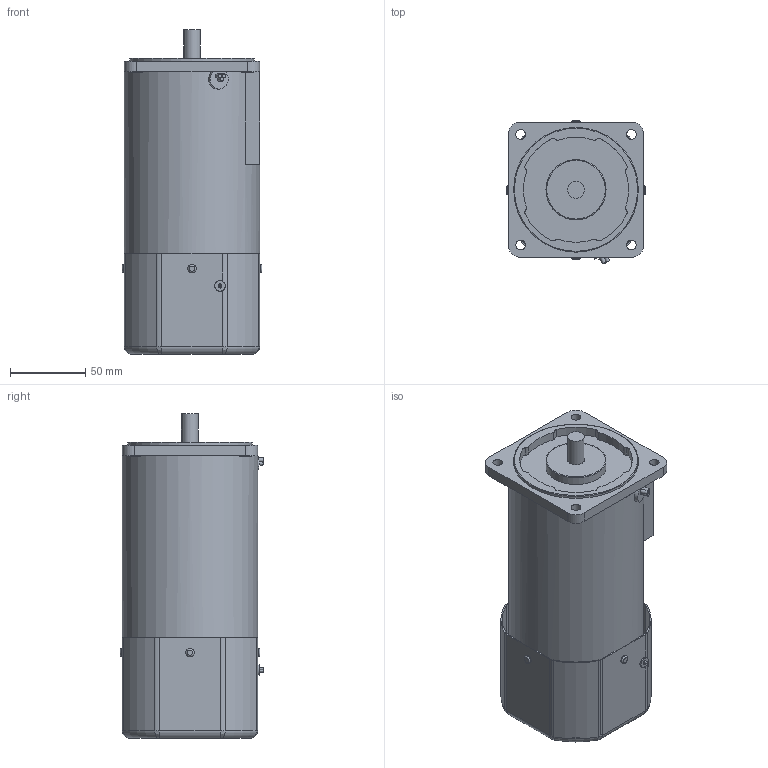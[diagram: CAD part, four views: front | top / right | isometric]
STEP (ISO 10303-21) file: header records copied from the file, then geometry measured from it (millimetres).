
FILE_DESCRIPTION((''),'2;1');
FILE_NAME('E:\2공장-도면\3D\표준형 3D(민규)\step file\SU,SP\K9IP180Fㅁ-Sㅁ.stp','2014-11-14T14:10:44',('AHN'),(''),'Autodesk Inventor 2012','Autodesk Inventor 2012','');
FILE_SCHEMA(('CONFIG_CONTROL_DESIGN'));
Length unit declared in the file: millimetre
Products named in the file (1): K9IP180Fㅁ-Sㅁ
Bounding box: 93 x 95.71 x 216 mm (x, y, z)
Volume: 1175931.4 mm3; surface area: 116752.8 mm2
Topology: 1 solids, 1 shells, 253 faces, 627 edges, 381 vertices
Faces by surface type: cylinder 127, plane 80, torus 38, bspline 8
Full cylindrical faces by diameter (mm): 1.4 x2, 5.5 x4, 6.5 x4, 7 x2, 8 x4, 11.3 x1, 40 x1, 83 x1, 90 x1
Entity records: 8149 total; most frequent: CARTESIAN_POINT 2121, DIRECTION 1299, ORIENTED_EDGE 1196, EDGE_CURVE 598, AXIS2_PLACEMENT_3D 514, VERTEX_POINT 376, EDGE_LOOP 324, VECTOR 271
